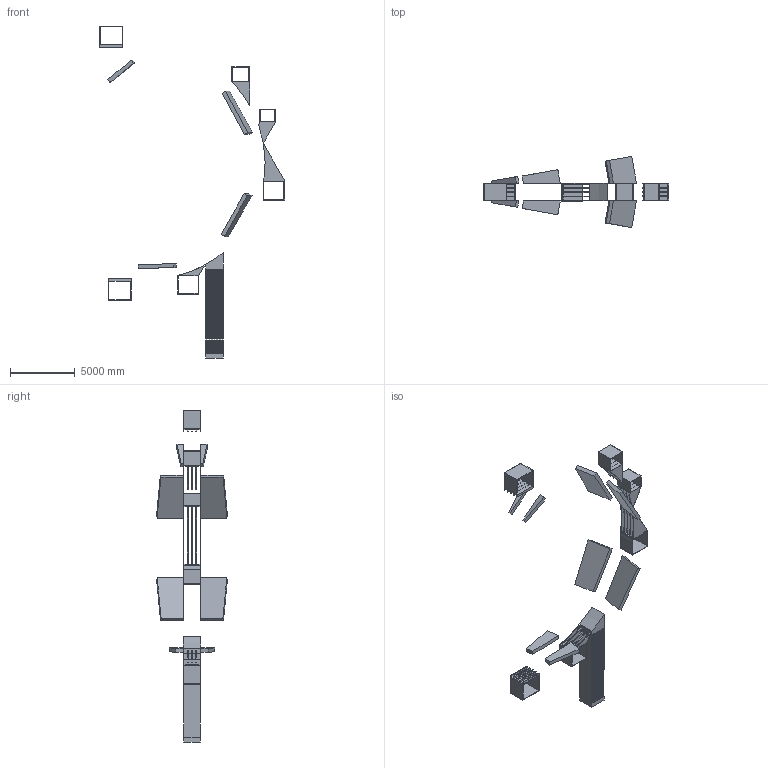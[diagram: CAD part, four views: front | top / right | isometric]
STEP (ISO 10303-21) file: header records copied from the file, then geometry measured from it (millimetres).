
FILE_DESCRIPTION(('FreeCAD Model'),'2;1');
FILE_NAME('Open CASCADE Shape Model','2026-10-11T08:18:57',('Bluemira'), ('Bluemira'),'Open CASCADE STEP processor 7.8','FreeCAD','Unknown');
FILE_SCHEMA(('AP242_MANAGED_MODEL_BASED_3D_ENGINEERING_MIM_LF. {1 0 10303 442 1 1 4 }'));
Length unit declared in the file: metre
Products named in the file (16): Unnamed; TF_OIS_left_1_1; TF_OIS_right_1_1; TF_OIS_left_2_1; TF_OIS_right_2_1; TF_OIS_left_3_1; TF_OIS_right_3_1; TF_OIS_left_4_1; TF_OIS_right_4_1; PFCoilSupport_0_1; PFCoilSupport_1_1; PFCoilSupport_2_1; PFCoilSupport_3_1; PFCoilSupport_4_1; PFCoilSupport_5_1; ITER_like_gravity_support_1
Assembly tree (15 placements, depth 2):
  Unnamed
    TF_OIS_left_1_1
    TF_OIS_right_1_1
    TF_OIS_left_2_1
    TF_OIS_right_2_1
    TF_OIS_left_3_1
    TF_OIS_right_3_1
    TF_OIS_left_4_1
    TF_OIS_right_4_1
    PFCoilSupport_0_1
    PFCoilSupport_1_1
    PFCoilSupport_2_1
    PFCoilSupport_3_1
    PFCoilSupport_4_1
    PFCoilSupport_5_1
    ITER_like_gravity_support_1
Bounding box: 14305.04 x 5491.75 x 25636.29 mm (x, y, z)
Volume: 22942561516.1 mm3; surface area: 450625865.8 mm2
Topology: 15 solids, 15 shells, 296 faces, 738 edges, 452 vertices
Faces by surface type: plane 281, extrusion 15
Entity records: 22336 total; most frequent: CARTESIAN_POINT 7994, DIRECTION 2299, VECTOR 1705, LINE 1690, ORIENTED_EDGE 1476, PCURVE 1476, DEFINITIONAL_REPRESENTATION 1476, EDGE_CURVE 738
